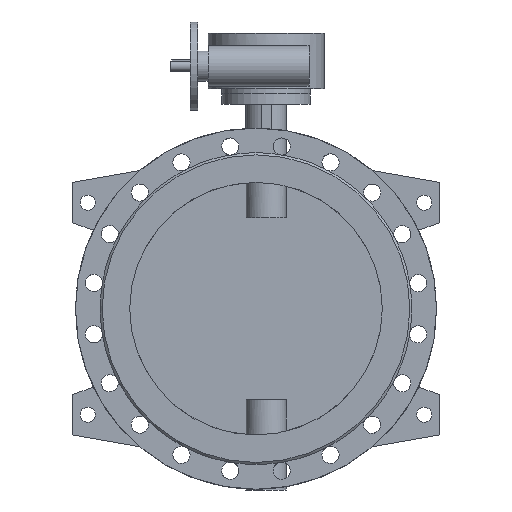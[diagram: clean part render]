
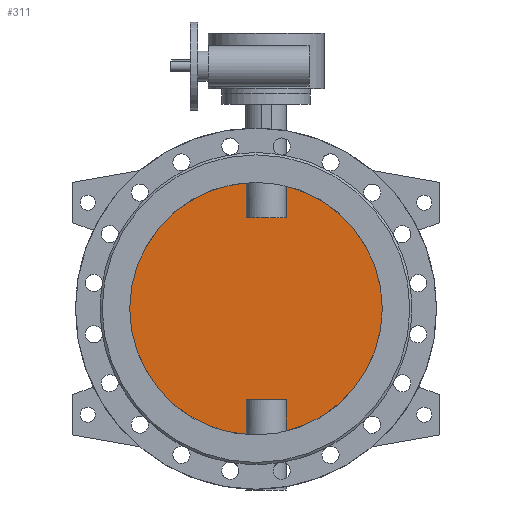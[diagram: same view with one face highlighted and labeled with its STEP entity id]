
A CAD part, front view. The second image highlights one B-rep face of the part: STEP entity #311.
In plain terms, the highlighted planar face has unit normal (0, -1, 0).
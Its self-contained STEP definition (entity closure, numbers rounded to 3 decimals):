
#311=ADVANCED_FACE('',(#1687),#1689,.F.);
#1687=FACE_BOUND('',#1688,.T.);
#1688=EDGE_LOOP('',(#3120,#3121,#3122,#3123,#3124,#3125,#3126,#3127));
#1689=PLANE('',#1690);
#1690=AXIS2_PLACEMENT_3D('',#1691,#1692,#1693);
#1691=CARTESIAN_POINT('',(0.,-5.,0.));
#1692=DIRECTION('',(0.,1.,0.));
#1693=DIRECTION('',(1.,0.,0.));
#3120=ORIENTED_EDGE('',*,*,#3809,.T.);
#3121=ORIENTED_EDGE('',*,*,#3815,.T.);
#3122=ORIENTED_EDGE('',*,*,#3816,.T.);
#3123=ORIENTED_EDGE('',*,*,#3817,.T.);
#3124=ORIENTED_EDGE('',*,*,#3811,.T.);
#3125=ORIENTED_EDGE('',*,*,#3818,.T.);
#3126=ORIENTED_EDGE('',*,*,#3819,.T.);
#3127=ORIENTED_EDGE('',*,*,#3820,.T.);
#3809=EDGE_CURVE('',#4744,#4745,#4746,.F.);
#3811=EDGE_CURVE('',#4749,#4747,#4750,.F.);
#3815=EDGE_CURVE('',#4745,#4756,#4757,.T.);
#3816=EDGE_CURVE('',#4756,#4758,#4759,.F.);
#3817=EDGE_CURVE('',#4758,#4749,#4760,.F.);
#3818=EDGE_CURVE('',#4747,#4761,#4762,.F.);
#3819=EDGE_CURVE('',#4761,#4763,#4764,.F.);
#3820=EDGE_CURVE('',#4763,#4744,#4765,.T.);
#4744=VERTEX_POINT('',#9090);
#4745=VERTEX_POINT('',#9091);
#4746=CIRCLE('',#9092,250.);
#4747=VERTEX_POINT('',#9096);
#4749=VERTEX_POINT('',#9187);
#4750=CIRCLE('',#9188,250.);
#4756=VERTEX_POINT('',#9298);
#4757=LINE('',#9299,#9300);
#4758=VERTEX_POINT('',#9302);
#4759=LINE('',#9303,#9304);
#4760=LINE('',#9306,#9307);
#4761=VERTEX_POINT('',#9309);
#4762=LINE('',#9310,#9311);
#4763=VERTEX_POINT('',#9313);
#4764=LINE('',#9314,#9315);
#4765=LINE('',#9317,#9318);
#9090=CARTESIAN_POINT('',(59.686,-5.,-242.771));
#9091=CARTESIAN_POINT('',(59.686,-5.,242.771));
#9092=AXIS2_PLACEMENT_3D('',#9093,#9094,#9095);
#9093=CARTESIAN_POINT('',(0.,-5.,0.));
#9094=DIRECTION('',(0.,1.,0.));
#9095=DIRECTION('',(0.239,0.,0.971));
#9096=CARTESIAN_POINT('',(-19.686,-5.,-249.224));
#9187=CARTESIAN_POINT('',(-19.686,-5.,249.224));
#9188=AXIS2_PLACEMENT_3D('',#9189,#9190,#9191);
#9189=CARTESIAN_POINT('',(0.,-5.,0.));
#9190=DIRECTION('',(0.,1.,0.));
#9191=DIRECTION('',(-0.079,0.,-0.997));
#9298=CARTESIAN_POINT('',(59.686,-5.,180.));
#9299=CARTESIAN_POINT('',(59.686,-5.,242.771));
#9300=VECTOR('',#9301,1.);
#9301=DIRECTION('',(0.,0.,-1.));
#9302=CARTESIAN_POINT('',(-19.686,-5.,180.));
#9303=CARTESIAN_POINT('',(-19.686,-5.,180.));
#9304=VECTOR('',#9305,1.);
#9305=DIRECTION('',(1.,0.,0.));
#9306=CARTESIAN_POINT('',(-19.686,-5.,249.224));
#9307=VECTOR('',#9308,1.);
#9308=DIRECTION('',(0.,0.,-1.));
#9309=CARTESIAN_POINT('',(-19.686,-5.,-180.));
#9310=CARTESIAN_POINT('',(-19.686,-5.,-180.));
#9311=VECTOR('',#9312,1.);
#9312=DIRECTION('',(0.,0.,-1.));
#9313=CARTESIAN_POINT('',(59.686,-5.,-180.));
#9314=CARTESIAN_POINT('',(59.686,-5.,-180.));
#9315=VECTOR('',#9316,1.);
#9316=DIRECTION('',(-1.,0.,0.));
#9317=CARTESIAN_POINT('',(59.686,-5.,-180.));
#9318=VECTOR('',#9319,1.);
#9319=DIRECTION('',(0.,0.,-1.));
